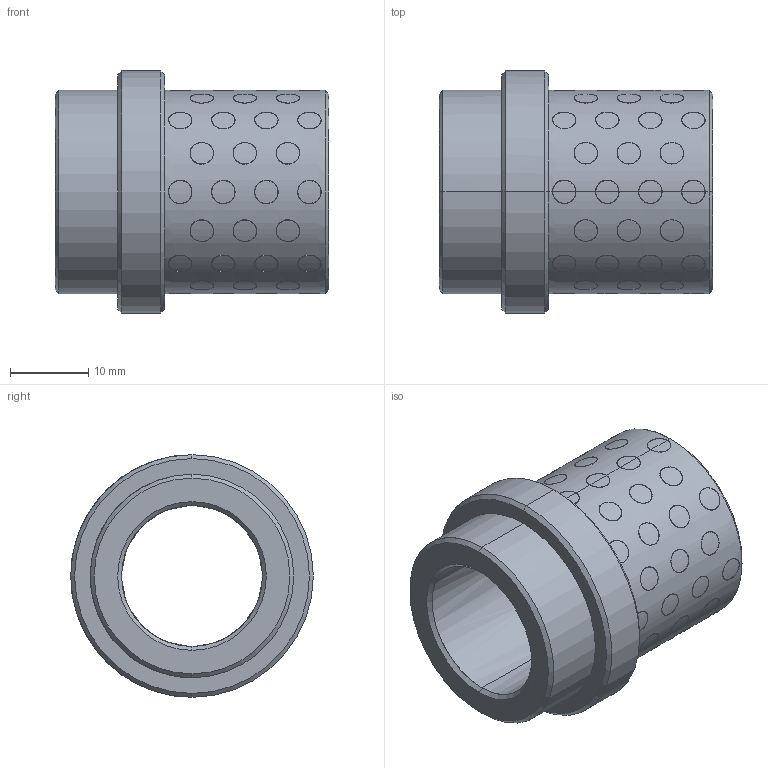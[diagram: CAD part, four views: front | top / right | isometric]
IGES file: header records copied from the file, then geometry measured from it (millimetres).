
Start section: START RECORD GO HERE.
Global section: file name: G31218027.igs; native system: DASSAULT SYSTEMES CATIA V5 R20 - www.3ds.com; preprocessor: CATIA Version 5 Release 20 ; author: r.borello; organization: CFTORINO; date: 20190624.121759; units: millimetre
Bounding box: 35 x 31 x 31 mm (x, y, z)
Surface area: 9975 mm2 (no closed solid volume)
Topology: 0 solids, 0 shells, 376 faces, 1632 edges, 1632 vertices
Faces by surface type: revolution 372, plane 4
